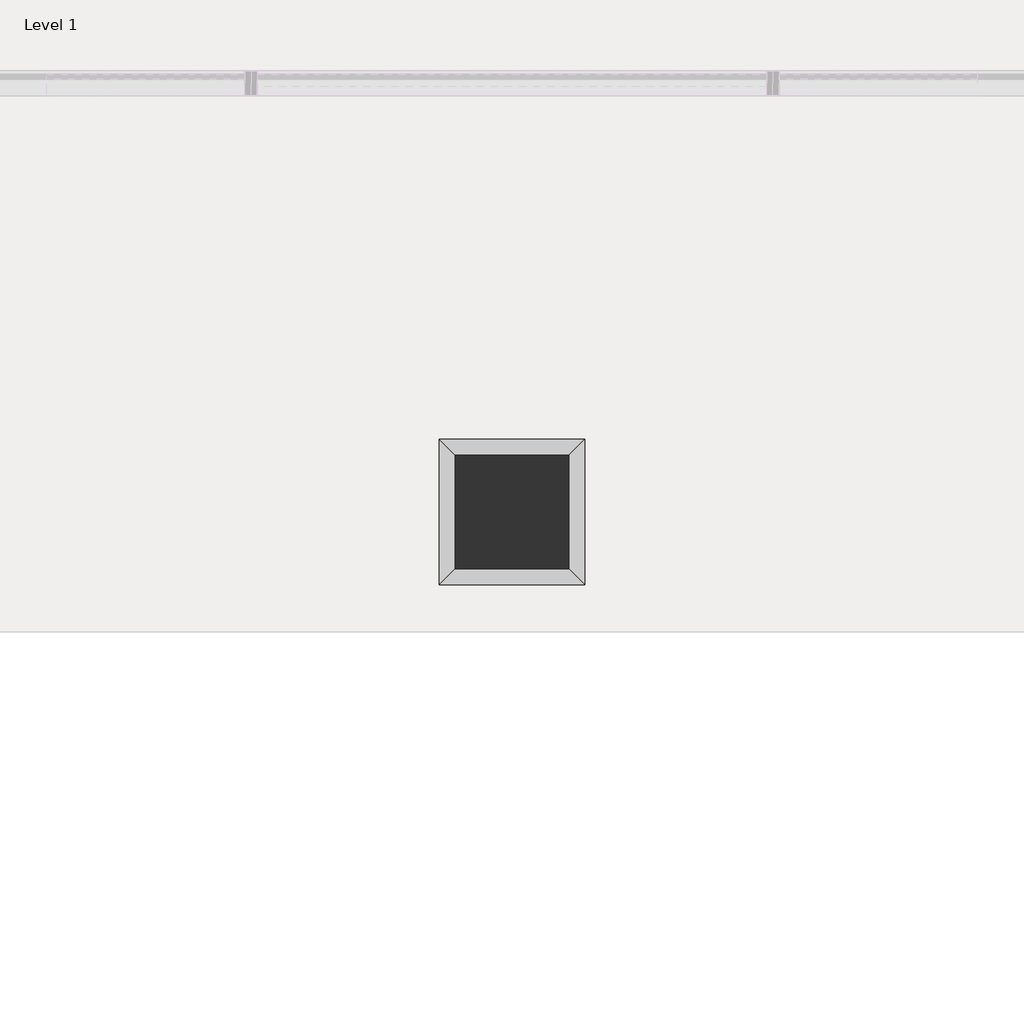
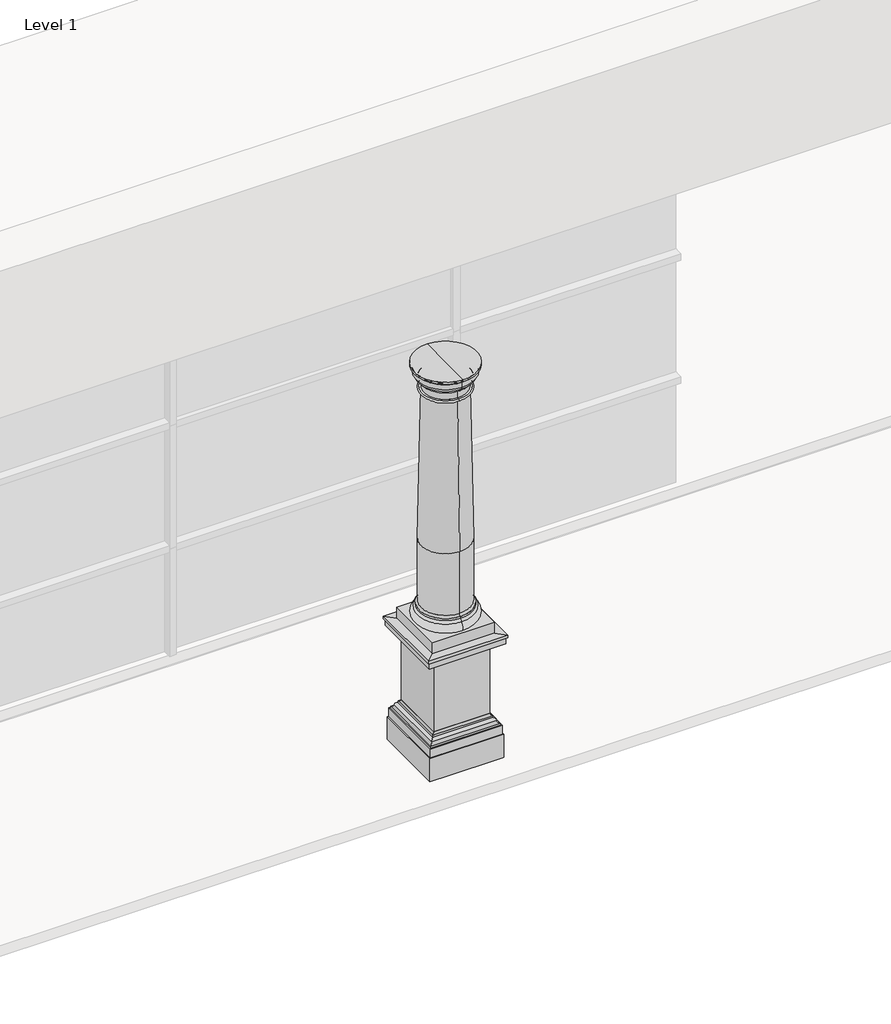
# One storey, part 5 of 8: 1 column.
"""IFC4 building model written with IfcOpenShell, lengths in millimetres."""

import ifcopenshell
import ifcopenshell.guid

model = None  # the IFC model being written
_history = None  # IfcOwnerHistory: only IFC2X3 demands one
_inside = {}  # id of a spatial element -> (the spatial element, [elements in it])
_under = {}  # id of a project, library or spatial element -> (it, [spatial elements below it])
_declared = {}  # id of a project -> (the project, [libraries it declares])
_typed = {}  # id of a type object -> (the type object, [elements of that type])
_made_of = {}  # id of a material, layer set ... -> (it, [elements and type objects made of it])


def new_model(schema):
    """Start an empty IFC model of exactly this schema.

    Asked for "IFC4X3", IfcOpenShell would pick the latest addendum, in which some entities
    have other attributes; the version numbers below select the first issue.
    IFC2X3 requires an IfcOwnerHistory on every rooted entity: one is made here for all.
    """
    global model, _history
    if schema == "IFC4X3":
        model = ifcopenshell.file(schema_version=(4, 3, 0, 0))
    else:
        model = ifcopenshell.file(schema=schema)
    _inside.clear()
    _under.clear()
    _declared.clear()
    _typed.clear()
    _made_of.clear()
    _history = None
    if model.schema == "IFC2X3":
        org = make("IfcOrganization", Name="unknown")
        user = make(
            "IfcPersonAndOrganization",
            ThePerson=make("IfcPerson", FamilyName="unknown"),
            TheOrganization=org,
        )
        app = make(
            "IfcApplication",
            ApplicationDeveloper=org,
            Version="unknown",
            ApplicationFullName="unknown",
            ApplicationIdentifier="unknown",
        )
        _history = make(
            "IfcOwnerHistory",
            OwningUser=user,
            OwningApplication=app,
            ChangeAction="ADDED",
            CreationDate=0,
        )
    return model


def make(cls, **values):
    """One entity of the class cls with the attributes given. An attribute that is None is left unset."""
    return model.create_entity(
        cls, **{name: value for name, value in values.items() if value is not None}
    )


def rooted(cls, **values):
    """An entity with a GlobalId (a new one), such as an element, a storey or a relation."""
    return make(cls, GlobalId=ifcopenshell.guid.new(), OwnerHistory=_history, **values)


def si_unit(unit_type, name, prefix=None):
    """IfcSIUnit, for example si_unit("LENGTHUNIT", "METRE", prefix="MILLI")."""
    return make("IfcSIUnit", UnitType=unit_type, Prefix=prefix, Name=name)


def assignment(units):
    """IfcUnitAssignment: the units of a project."""
    return None if units is None else make("IfcUnitAssignment", Units=units)


def point(xyz):
    """IfcCartesianPoint."""
    return None if xyz is None else make("IfcCartesianPoint", Coordinates=xyz)


def direction(xyz):
    """IfcDirection."""
    return None if xyz is None else make("IfcDirection", DirectionRatios=xyz)


def frame(location, z_axis=None, x_axis=None):
    """IfcAxis2Placement3D, a coordinate frame: its origin and axes. An axis left out is left unset."""
    return make(
        "IfcAxis2Placement3D",
        Location=point(location),
        Axis=direction(z_axis),
        RefDirection=direction(x_axis),
    )


def origin():
    """The frame at (0, 0, 0) with its axes left unset."""
    return frame((0.0, 0.0, 0.0))


def place(relative_to, where):
    """IfcLocalPlacement: puts the frame where relative to a parent placement (None: the world)."""
    return make(
        "IfcLocalPlacement", PlacementRelTo=relative_to, RelativePlacement=where
    )


def context(
    kind, dimensions, precision=None, world=None, true_north=None, identifier=None
):
    """IfcGeometricRepresentationContext, for example the 3D "Model" context."""
    return make(
        "IfcGeometricRepresentationContext",
        ContextIdentifier=identifier,
        ContextType=kind,
        CoordinateSpaceDimension=dimensions,
        Precision=precision,
        WorldCoordinateSystem=world,
        TrueNorth=true_north,
    )


def project(units=None, contexts=None):
    """IfcProject with its units and contexts."""
    return rooted(
        "IfcProject",
        Name="project",
        RepresentationContexts=contexts,
        UnitsInContext=assignment(units),
    )


def spatial(cls, under=None, at=None, **own):
    """A site, building, storey or space (cls), placed at a placement, below another one or the project."""
    s = rooted(cls, ObjectPlacement=at, **own)
    if under is not None:
        _under.setdefault(under.id(), (under, []))[1].append(s)
    return s


def polyline(points):
    """IfcPolyline through the points."""
    return make("IfcPolyline", Points=[point(p) for p in points])


def circle_curve(where, radius):
    """IfcCircle in the frame where."""
    return make("IfcCircle", Position=where, Radius=radius)


def ellipse_curve(where, semi_axis1, semi_axis2):
    """IfcEllipse in the frame where."""
    return make(
        "IfcEllipse", Position=where, SemiAxis1=semi_axis1, SemiAxis2=semi_axis2
    )


def trimmed(basis, trim1, trim2, sense, master):
    """IfcTrimmedCurve: the piece of a basis curve between two trims."""
    return make(
        "IfcTrimmedCurve",
        BasisCurve=basis,
        Trim1=trim1,
        Trim2=trim2,
        SenseAgreement=sense,
        MasterRepresentation=master,
    )


def outline(outer, holes=None, kind="AREA"):
    """IfcArbitraryClosedProfileDef: a profile drawn as a closed curve; with holes, ...WithVoids."""
    if holes is None:
        return make("IfcArbitraryClosedProfileDef", ProfileType=kind, OuterCurve=outer)
    return make(
        "IfcArbitraryProfileDefWithVoids",
        ProfileType=kind,
        OuterCurve=outer,
        InnerCurves=holes,
    )


def extrude(swept, where, along, depth):
    """IfcExtrudedAreaSolid: the profile swept, set in the frame where, extruded along a direction by depth."""
    return make(
        "IfcExtrudedAreaSolid",
        SweptArea=swept,
        Position=where,
        ExtrudedDirection=direction(along),
        Depth=depth,
    )


def faces_of(points, faces, orient=None, outer=None):
    """IfcFace entities. A face is a list of loops; a loop is a list of indices into points, from 0.

    orient and outer hold one flag for each loop. By default every Orientation is true, the
    first loop of a face is its IfcFaceOuterBound and the others are IfcFaceBound.
    """
    made = []
    for i, loops in enumerate(faces):
        bounds = []
        for j, loop in enumerate(loops):
            is_outer = j == 0 if outer is None else outer[i][j]
            bounds.append(
                make(
                    "IfcFaceOuterBound" if is_outer else "IfcFaceBound",
                    Bound=make("IfcPolyLoop", Polygon=[points[k] for k in loop]),
                    Orientation=True if orient is None else orient[i][j],
                )
            )
        made.append(make("IfcFace", Bounds=bounds))
    return made


def faceted_brep(points, faces, orient=None, outer=None, voids=None):
    """IfcFacetedBrep: a solid bounded by flat faces; with voids (closed shells), ...WithVoids."""
    shared = [point(p) for p in points]
    hull = make("IfcClosedShell", CfsFaces=faces_of(shared, faces, orient, outer))
    if voids is None:
        return make("IfcFacetedBrep", Outer=hull)
    return make(
        "IfcFacetedBrepWithVoids",
        Outer=hull,
        Voids=[
            make(cls, CfsFaces=faces_of(shared, fs, o, b)) for cls, fs, o, b in voids
        ],
    )


def shape(context_of_items, identifier, shape_type, items):
    """IfcShapeRepresentation: the items that make up one representation, for example the "Body"."""
    return make(
        "IfcShapeRepresentation",
        ContextOfItems=context_of_items,
        RepresentationIdentifier=identifier,
        RepresentationType=shape_type,
        Items=items,
    )


def made_of(thing, what):
    """Note that an element or type object is made of a material, layer set ...; save() writes the relation."""
    if what is not None:
        _made_of.setdefault(what.id(), (what, []))[1].append(thing)
    return thing


def element(
    cls,
    number,
    at=None,
    inside=None,
    cuts=None,
    type_object=None,
    material=None,
    context=None,
    identifier="Body",
    shape_type=None,
    held_by="IfcProductDefinitionShape",
    body=None,
    shapes=None,
    **own,
):
    """One element of the class cls, such as IfcWall. Its Tag is "e" and its number.

    at: its placement. inside: the storey or other place that contains it. cuts: it is an
    opening in that element (IfcRelVoidsElement). A single representation is given by context,
    identifier, shape_type and body (its items); several are given by shapes. held_by: the class
    of the entity that holds the representations. save() writes the other relations.
    """
    e = rooted(cls, Tag="e%d" % number, ObjectPlacement=at, **own)
    if body is not None:
        shapes = [shape(context, identifier, shape_type, body)]
    if shapes is not None:
        e.Representation = make(held_by, Representations=shapes)
    if inside is not None:
        _inside.setdefault(inside.id(), (inside, []))[1].append(e)
    if cuts is not None:
        rooted(
            "IfcRelVoidsElement", RelatingBuildingElement=cuts, RelatedOpeningElement=e
        )
    if type_object is not None:
        _typed.setdefault(type_object.id(), (type_object, []))[1].append(e)
    return made_of(e, material)


def aggregate(whole, parts):
    """IfcRelAggregates: a whole, such as a stair, and the parts it consists of."""
    return rooted("IfcRelAggregates", RelatingObject=whole, RelatedObjects=parts)


def save(model, path):
    """Write the relations noted so far, then the file.

    IfcRelAggregates (storeys below a building ...), IfcRelContainedInSpatialStructure (elements
    in a storey), IfcRelDefinesByType, IfcRelAssociatesMaterial and IfcRelDeclares: one each for
    every whole, place, type object, material and project.
    """
    for whole, parts in _under.values():
        aggregate(whole, parts)
    for where, things in _inside.values():
        rooted(
            "IfcRelContainedInSpatialStructure",
            RelatedElements=things,
            RelatingStructure=where,
        )
    for kind, things in _typed.values():
        rooted("IfcRelDefinesByType", RelatedObjects=things, RelatingType=kind)
    for what, things in _made_of.values():
        rooted("IfcRelAssociatesMaterial", RelatedObjects=things, RelatingMaterial=what)
    for by, libraries in _declared.values():
        rooted("IfcRelDeclares", RelatingContext=by, RelatedDefinitions=libraries)
    model.write(path)


def plane_surface(at):
    """IfcPlane: the flat surface through the origin of the frame at, square to its z axis."""
    return make("IfcPlane", Position=at)


def cylinder_surface(at, radius):
    """IfcCylindricalSurface: all points at the distance radius from the z axis of the frame at."""
    return make("IfcCylindricalSurface", Position=at, Radius=radius)


def revolved_surface(curve, axis_point, axis_direction):
    """IfcSurfaceOfRevolution: the curve turned about the line through axis_point along axis_direction."""
    return make(
        "IfcSurfaceOfRevolution",
        SweptCurve=make("IfcArbitraryOpenProfileDef", ProfileType="CURVE", Curve=curve),
        AxisPosition=make("IfcAxis1Placement", Location=point(axis_point), Axis=direction(axis_direction)),
    )


def advanced_brep(points, edges, surfaces, faces):
    """IfcAdvancedBrep: a solid bounded by faces that lie on surfaces and meet in shared edges.

    An edge is (start, end): straight between two places in points (the first is 0);
    or (start, end, curve); or (start, end, curve, False) where it runs against its curve.
    A face is (place in surfaces, loops), or (place, loops, False) where it looks against
    its surface's normal. A loop lists edges by number (the first is 1), with a minus sign
    where the edge is run from its end to its start. The first loop is the outer one.
    """
    corners = [point(p) for p in points]
    vertices = [make("IfcVertexPoint", VertexGeometry=c) for c in corners]
    made = []
    for start, end, *more in edges:
        made.append(
            make(
                "IfcEdgeCurve",
                EdgeStart=vertices[start],
                EdgeEnd=vertices[end],
                EdgeGeometry=more[0] if more else make("IfcPolyline", Points=[corners[start], corners[end]]),
                SameSense=more[1] if len(more) > 1 else True,
            )
        )
    hull = []
    for where, loops, *sense in faces:
        bounds = []
        for j, loop in enumerate(loops):
            ring = [make("IfcOrientedEdge", EdgeElement=made[abs(k) - 1], Orientation=k > 0) for k in loop]
            bounds.append(
                make(
                    "IfcFaceOuterBound" if j == 0 else "IfcFaceBound",
                    Bound=make("IfcEdgeLoop", EdgeList=ring),
                    Orientation=True,
                )
            )
        hull.append(make("IfcAdvancedFace", Bounds=bounds, FaceSurface=surfaces[where], SameSense=sense[0] if sense else True))
    return make("IfcAdvancedBrep", Outer=make("IfcClosedShell", CfsFaces=hull))


model = new_model("IFC4")

# Units and contexts
model_context = context("Model", 3, world=origin())
ifc_project = project(units=[si_unit("LENGTHUNIT", "METRE", prefix="MILLI")], contexts=[model_context])

# Site, building, storey
site = spatial("IfcSite", under=ifc_project)
building = spatial("IfcBuilding", under=site)
storey = spatial("IfcBuildingStorey", under=building, Name="Level 1", Elevation=0.0)

# Column
placement = place(None, origin())
element("IfcColumn", 1, ObjectType="Doric Column : 16'  Height (10 2/3 x Dia.)", at=placement, inside=storey, context=model_context, shape_type="SolidModel", body=[
    extrude(outline(polyline([(5363.9045948, -1720.0769576), (5363.9045948, -2297.9269576), (4786.0545948, -2297.9269576), (4786.0545948, -1720.0769576), (5363.9045948, -1720.0769576)])), frame((0.0, 0.0, 1117.6), z_axis=(0.0, 0.0, 1.0), x_axis=(1.0, 0.0, 0.0)), (0.0, 0.0, 1.0), 107.95),
    faceted_brep([(4846.3795948, -2237.6019576, 1117.6), (4703.5045948, -2380.4769576, 1117.6), (5446.4545948, -2380.4769576, 1117.6), (5303.5795948, -2237.6019576, 1117.6), (4846.3795948, -2237.6019576, 1003.3), (5303.5795948, -2237.6019576, 1003.3), (4775.0966777, -2308.8848746, 1003.3), (5374.8625119, -2308.8848746, 1003.3), (4741.6045948, -2342.3769576, 1028.7), (5408.3545948, -2342.3769576, 1028.7), (4716.2045948, -2367.7769576, 1028.7), (5433.7545948, -2367.7769576, 1028.7), (4716.2045948, -2367.7769576, 1092.2), (5433.7545948, -2367.7769576, 1092.2), (4703.5045948, -2380.4769576, 1092.2), (5446.4545948, -2380.4769576, 1092.2), (5446.4545948, -1637.5269576, 1117.6), (5303.5795948, -1780.4019576, 1117.6), (5303.5795948, -1780.4019576, 1003.3), (5374.8625119, -1709.1190405, 1003.3), (5408.3545948, -1675.6269576, 1028.7), (5433.7545948, -1650.2269576, 1028.7), (5433.7545948, -1650.2269576, 1092.2), (5446.4545948, -1637.5269576, 1092.2), (4703.5045948, -1637.5269576, 1117.6), (4846.3795948, -1780.4019576, 1117.6), (4846.3795948, -1780.4019576, 1003.3), (4775.0966777, -1709.1190405, 1003.3), (4741.6045948, -1675.6269576, 1028.7), (4716.2045948, -1650.2269576, 1028.7), (4716.2045948, -1650.2269576, 1092.2), (4703.5045948, -1637.5269576, 1092.2)], [[[0, 1, 2, 3]], [[4, 0, 3, 5]], [[6, 4, 5, 7]], [[8, 6, 7, 9]], [[10, 8, 9, 11]], [[12, 10, 11, 13]], [[14, 12, 13, 15]], [[1, 14, 15, 2]], [[3, 2, 16, 17]], [[5, 3, 17, 18]], [[7, 5, 18, 19]], [[9, 7, 19, 20]], [[11, 9, 20, 21]], [[13, 11, 21, 22]], [[15, 13, 22, 23]], [[2, 15, 23, 16]], [[17, 16, 24, 25]], [[18, 17, 25, 26]], [[19, 18, 26, 27]], [[20, 19, 27, 28]], [[21, 20, 28, 29]], [[22, 21, 29, 30]], [[23, 22, 30, 31]], [[16, 23, 31, 24]], [[25, 24, 1, 0]], [[26, 25, 0, 4]], [[27, 26, 4, 6]], [[28, 27, 6, 8]], [[29, 28, 8, 10]], [[30, 29, 10, 12]], [[31, 30, 12, 14]], [[24, 31, 14, 1]]]),
    advanced_brep(
    [(5074.9795948, -2256.6519576, 1358.9), (5074.9795948, -1761.3519576, 1358.9), (5074.9795948, -1780.4019576, 1377.95), (5074.9795948, -2237.6019576, 1377.95), (5074.9795948, -1780.4019576, 1989.5041667), (5074.9795948, -2237.6019576, 1989.5041667), (5074.9795948, -2256.6519576, 1339.85), (5074.9795948, -1761.3519576, 1339.85), (5074.9795948, -2256.6519576, 1308.1), (5074.9795948, -1761.3519576, 1308.1), (5074.9795948, -2256.6519576, 1225.55), (5074.9795948, -1761.3519576, 1225.55), (5074.9795948, -2009.0019576, 1225.55), (5074.9795948, -1808.9769576, 3479.3125), (5074.9795948, -2209.0269576, 3479.3125), (5074.9795948, -2301.1019576, 3714.2625601), (5074.9795948, -1716.9019576, 3714.2625601), (5074.9795948, -1716.9019576, 3733.3125), (5074.9795948, -2301.1019576, 3733.3125), (5074.9795948, -2009.0019576, 3733.3125), (5074.9795948, -2282.0518974, 3695.2125), (5074.9795948, -1735.9520177, 3695.2125), (5074.9795948, -2278.8769576, 3695.2125), (5074.9795948, -1739.1269576, 3695.2125), (5074.9795948, -2278.8769576, 3644.4125), (5074.9795948, -1739.1269576, 3644.4125), (5074.9795948, -2272.5269576, 3644.4125), (5074.9795948, -1745.4769576, 3644.4125), (5074.9795948, -2228.0769576, 3599.9625), (5074.9795948, -1789.9269576, 3599.9625), (5074.9795948, -2228.0769576, 3580.9125), (5074.9795948, -1789.9269576, 3580.9125), (5074.9795948, -2209.0269576, 3580.9125), (5074.9795948, -1808.9769576, 3580.9125), (5074.9795948, -2209.0269576, 3498.3625), (5074.9795948, -1808.9769576, 3498.3625), (5074.9795948, -2228.0769576, 3498.3625), (5074.9795948, -1789.9269576, 3498.3625), (5074.9795948, -2228.0769576, 3479.3125), (5074.9795948, -1789.9269576, 3479.3125)],
    [
        (0, 1, circle_curve(frame((5074.9795948, -2009.0019576, 1358.9), z_axis=(0.0, 0.0, 1.0), x_axis=(0.0, 1.0, 0.0)), 247.65)),
        (1, 2, circle_curve(frame((5074.9795948, -1761.3519576, 1377.95), z_axis=(-1.0, 0.0, 0.0), x_axis=(0.0, -1.0, 0.0)), 19.05)),
        (2, 3, circle_curve(frame((5074.9795948, -2009.0019576, 1377.95), z_axis=(0.0, 0.0, -1.0), x_axis=(0.0, 1.0, 0.0)), 228.6)),
        (3, 0, circle_curve(frame((5074.9795948, -2256.6519576, 1377.95), z_axis=(-1.0, 0.0, 0.0), x_axis=(0.0, 1.0, 0.0)), 19.05)),
        (2, 4),
        (4, 5, circle_curve(frame((5074.9795948, -2009.0019576, 1989.5041667), z_axis=(0.0, 0.0, -1.0), x_axis=(0.0, 1.0, 0.0)), 228.6)),
        (5, 3),
        (2, 3, circle_curve(frame((5074.9795948, -2009.0019576, 1377.95), z_axis=(0.0, 0.0, 1.0), x_axis=(0.0, 1.0, 0.0)), 228.6)),
        (5, 4, circle_curve(frame((5074.9795948, -2009.0019576, 1989.5041667), z_axis=(0.0, 0.0, -1.0), x_axis=(0.0, 1.0, 0.0)), 228.6)),
        (1, 0, circle_curve(frame((5074.9795948, -2009.0019576, 1358.9), z_axis=(0.0, 0.0, 1.0), x_axis=(0.0, 1.0, 0.0)), 247.65)),
        (6, 7, circle_curve(frame((5074.9795948, -2009.0019576, 1339.85), z_axis=(0.0, 0.0, 1.0), x_axis=(0.0, 1.0, 0.0)), 247.65)),
        (7, 1),
        (0, 6),
        (7, 6, circle_curve(frame((5074.9795948, -2009.0019576, 1339.85), z_axis=(0.0, 0.0, 1.0), x_axis=(0.0, 1.0, 0.0)), 247.65)),
        (8, 9, circle_curve(frame((5074.9795948, -2009.0019576, 1308.1), z_axis=(0.0, 0.0, 1.0), x_axis=(0.0, 1.0, 0.0)), 247.65)),
        (9, 7, circle_curve(frame((5074.9795948, -1761.3519576, 1323.975), z_axis=(1.0, 0.0, 0.0), x_axis=(0.0, -1.0, 0.0)), 15.875)),
        (6, 8, circle_curve(frame((5074.9795948, -2256.6519576, 1323.975), z_axis=(1.0, 0.0, 0.0), x_axis=(0.0, 1.0, 0.0)), 15.875)),
        (9, 8, circle_curve(frame((5074.9795948, -2009.0019576, 1308.1), z_axis=(0.0, 0.0, 1.0), x_axis=(0.0, 1.0, 0.0)), 247.65)),
        (10, 11, circle_curve(frame((5074.9795948, -2009.0019576, 1225.55), z_axis=(0.0, 0.0, 1.0), x_axis=(0.0, 1.0, 0.0)), 247.65)),
        (11, 9, circle_curve(frame((5074.9795948, -1761.3519576, 1266.825), z_axis=(1.0, 0.0, 0.0), x_axis=(0.0, -1.0, 0.0)), 41.275)),
        (8, 10, circle_curve(frame((5074.9795948, -2256.6519576, 1266.825), z_axis=(1.0, 0.0, 0.0), x_axis=(0.0, 1.0, 0.0)), 41.275)),
        (11, 10, circle_curve(frame((5074.9795948, -2009.0019576, 1225.55), z_axis=(0.0, 0.0, 1.0), x_axis=(0.0, 1.0, 0.0)), 247.65)),
        (12, 11),
        (10, 12),
        (4, 13),
        (13, 14, circle_curve(frame((5074.9795948, -2009.0019576, 3479.3125), z_axis=(0.0, 0.0, -1.0), x_axis=(0.0, 1.0, 0.0)), 200.025)),
        (14, 5),
        (14, 13, circle_curve(frame((5074.9795948, -2009.0019576, 3479.3125), z_axis=(0.0, 0.0, -1.0), x_axis=(0.0, 1.0, 0.0)), 200.025)),
        (15, 16, circle_curve(frame((5074.9795948, -2009.0019576, 3714.2625601), z_axis=(0.0, 0.0, 1.0), x_axis=(0.0, 1.0, 0.0)), 292.1)),
        (16, 17),
        (17, 18, circle_curve(frame((5074.9795948, -2009.0019576, 3733.3125), z_axis=(0.0, 0.0, -1.0), x_axis=(0.0, 1.0, 0.0)), 292.1)),
        (18, 15),
        (17, 19),
        (19, 18),
        (17, 18, circle_curve(frame((5074.9795948, -2009.0019576, 3733.3125), z_axis=(0.0, 0.0, 1.0), x_axis=(0.0, 1.0, 0.0)), 292.1)),
        (16, 15, circle_curve(frame((5074.9795948, -2009.0019576, 3714.2625601), z_axis=(0.0, 0.0, 1.0), x_axis=(0.0, 1.0, 0.0)), 292.1)),
        (20, 21, circle_curve(frame((5074.9795948, -2009.0019576, 3695.2125), z_axis=(0.0, 0.0, 1.0), x_axis=(0.0, 1.0, 0.0)), 273.0499399)),
        (21, 16, circle_curve(frame((5074.9795948, -1716.9019576, 3695.2125), z_axis=(-1.0, 0.0, 0.0), x_axis=(0.0, -1.0, 0.0)), 19.0500601)),
        (15, 20, circle_curve(frame((5074.9795948, -2301.1019576, 3695.2125), z_axis=(-1.0, 0.0, 0.0), x_axis=(0.0, 1.0, 0.0)), 19.0500601)),
        (21, 20, circle_curve(frame((5074.9795948, -2009.0019576, 3695.2125), z_axis=(0.0, 0.0, 1.0), x_axis=(0.0, 1.0, 0.0)), 273.0499399)),
        (22, 23, circle_curve(frame((5074.9795948, -2009.0019576, 3695.2125), z_axis=(0.0, 0.0, 1.0), x_axis=(0.0, 1.0, 0.0)), 269.875)),
        (23, 21),
        (20, 22),
        (23, 22, circle_curve(frame((5074.9795948, -2009.0019576, 3695.2125), z_axis=(0.0, 0.0, 1.0), x_axis=(0.0, 1.0, 0.0)), 269.875)),
        (24, 25, circle_curve(frame((5074.9795948, -2009.0019576, 3644.4125), z_axis=(0.0, 0.0, 1.0), x_axis=(0.0, 1.0, 0.0)), 269.875)),
        (25, 23),
        (22, 24),
        (25, 24, circle_curve(frame((5074.9795948, -2009.0019576, 3644.4125), z_axis=(0.0, 0.0, 1.0), x_axis=(0.0, 1.0, 0.0)), 269.875)),
        (26, 27, circle_curve(frame((5074.9795948, -2009.0019576, 3644.4125), z_axis=(0.0, 0.0, 1.0), x_axis=(0.0, 1.0, 0.0)), 263.525)),
        (27, 25),
        (24, 26),
        (27, 26, circle_curve(frame((5074.9795948, -2009.0019576, 3644.4125), z_axis=(0.0, 0.0, 1.0), x_axis=(0.0, 1.0, 0.0)), 263.525)),
        (28, 29, circle_curve(frame((5074.9795948, -2009.0019576, 3599.9625), z_axis=(0.0, 0.0, 1.0), x_axis=(0.0, 1.0, 0.0)), 219.075)),
        (29, 27, circle_curve(frame((5074.9795948, -1789.9269576, 3644.4125), z_axis=(1.0, 0.0, 0.0), x_axis=(0.0, -1.0, 0.0)), 44.45)),
        (26, 28, circle_curve(frame((5074.9795948, -2228.0769576, 3644.4125), z_axis=(1.0, 0.0, 0.0), x_axis=(0.0, 1.0, 0.0)), 44.45)),
        (29, 28, circle_curve(frame((5074.9795948, -2009.0019576, 3599.9625), z_axis=(0.0, 0.0, 1.0), x_axis=(0.0, 1.0, 0.0)), 219.075)),
        (30, 31, circle_curve(frame((5074.9795948, -2009.0019576, 3580.9125), z_axis=(0.0, 0.0, 1.0), x_axis=(0.0, 1.0, 0.0)), 219.075)),
        (31, 29, circle_curve(frame((5074.9795948, -1789.9269576, 3590.4375), z_axis=(1.0, 0.0, 0.0), x_axis=(0.0, -1.0, 0.0)), 9.525)),
        (28, 30, circle_curve(frame((5074.9795948, -2228.0769576, 3590.4375), z_axis=(1.0, 0.0, 0.0), x_axis=(0.0, 1.0, 0.0)), 9.525)),
        (31, 30, circle_curve(frame((5074.9795948, -2009.0019576, 3580.9125), z_axis=(0.0, 0.0, 1.0), x_axis=(0.0, 1.0, 0.0)), 219.075)),
        (32, 33, circle_curve(frame((5074.9795948, -2009.0019576, 3580.9125), z_axis=(0.0, 0.0, 1.0), x_axis=(0.0, 1.0, 0.0)), 200.025)),
        (33, 31),
        (30, 32),
        (33, 32, circle_curve(frame((5074.9795948, -2009.0019576, 3580.9125), z_axis=(0.0, 0.0, 1.0), x_axis=(0.0, 1.0, 0.0)), 200.025)),
        (34, 35, circle_curve(frame((5074.9795948, -2009.0019576, 3498.3625), z_axis=(0.0, 0.0, 1.0), x_axis=(0.0, 1.0, 0.0)), 200.025)),
        (35, 33),
        (32, 34),
        (35, 34, circle_curve(frame((5074.9795948, -2009.0019576, 3498.3625), z_axis=(0.0, 0.0, 1.0), x_axis=(0.0, 1.0, 0.0)), 200.025)),
        (36, 37, circle_curve(frame((5074.9795948, -2009.0019576, 3498.3625), z_axis=(0.0, 0.0, 1.0), x_axis=(0.0, 1.0, 0.0)), 219.075)),
        (37, 35),
        (34, 36),
        (37, 36, circle_curve(frame((5074.9795948, -2009.0019576, 3498.3625), z_axis=(0.0, 0.0, 1.0), x_axis=(0.0, 1.0, 0.0)), 219.075)),
        (38, 39, circle_curve(frame((5074.9795948, -2009.0019576, 3479.3125), z_axis=(0.0, 0.0, 1.0), x_axis=(0.0, 1.0, 0.0)), 219.075)),
        (39, 37, circle_curve(frame((5074.9795948, -1789.9269576, 3488.8375), z_axis=(1.0, 0.0, 0.0), x_axis=(0.0, -1.0, 0.0)), 9.525)),
        (36, 38, circle_curve(frame((5074.9795948, -2228.0769576, 3488.8375), z_axis=(1.0, 0.0, 0.0), x_axis=(0.0, 1.0, 0.0)), 9.525)),
        (39, 38, circle_curve(frame((5074.9795948, -2009.0019576, 3479.3125), z_axis=(0.0, 0.0, 1.0), x_axis=(0.0, 1.0, 0.0)), 219.075)),
        (13, 39),
        (38, 14),
    ],
    [
        revolved_surface(trimmed(ellipse_curve(frame((5074.9795948, -1761.3519576, 1377.95), z_axis=(1.0, 0.0, 0.0), x_axis=(0.0, -1.0, 0.0)), 19.05, 19.05), [point((5074.9795948, -1780.4019576, 1377.95))], [point((5074.9795948, -1761.3519576, 1358.9))], True, "CARTESIAN"), (5074.9795948, -2009.0019576, 3733.3125), (0.0, 0.0, -1.0)),
        cylinder_surface(frame((5074.9795948, -2009.0019576, 3733.3125), z_axis=(0.0, 0.0, -1.0), x_axis=(0.0, 1.0, 0.0)), 228.6),
        cylinder_surface(frame((5074.9795948, -2009.0019576, 3733.3125), z_axis=(0.0, 0.0, -1.0), x_axis=(0.0, 1.0, 0.0)), 247.65),
        revolved_surface(trimmed(ellipse_curve(frame((5074.9795948, -1761.3519576, 1323.975), z_axis=(-1.0, 0.0, 0.0), x_axis=(0.0, -1.0, 0.0)), 15.875, 15.875), [point((5074.9795948, -1761.3519576, 1339.85))], [point((5074.9795948, -1761.3519576, 1308.1))], True, "CARTESIAN"), (5074.9795948, -2009.0019576, 3733.3125), (0.0, 0.0, -1.0)),
        revolved_surface(trimmed(ellipse_curve(frame((5074.9795948, -1761.3519576, 1266.825), z_axis=(-1.0, 0.0, 0.0), x_axis=(0.0, -1.0, 0.0)), 41.275, 41.275), [point((5074.9795948, -1761.3519576, 1308.1))], [point((5074.9795948, -1761.3519576, 1225.55))], True, "CARTESIAN"), (5074.9795948, -2009.0019576, 3733.3125), (0.0, 0.0, -1.0)),
        plane_surface(frame((5074.9795948, -2009.0019576, 1225.55), z_axis=(0.0, 0.0, -1.0), x_axis=(0.0, 1.0, 0.0))),
        revolved_surface(polyline([(5074.9795948, -1808.9769576, 3479.3125), (5074.9795948, -1780.4019576, 1989.5041667)]), (5074.9795948, -2009.0019576, 3733.3125), (0.0, 0.0, -1.0)),
        cylinder_surface(frame((5074.9795948, -2009.0019576, 3733.3125), z_axis=(0.0, 0.0, -1.0), x_axis=(0.0, 1.0, 0.0)), 292.1),
        plane_surface(frame((5074.9795948, -2009.0019576, 3733.3125), z_axis=(0.0, 0.0, 1.0), x_axis=(0.0, 1.0, 0.0))),
        revolved_surface(trimmed(ellipse_curve(frame((5074.9795948, -1716.9019576, 3695.2125), z_axis=(1.0, 0.0, 0.0), x_axis=(0.0, -1.0, 0.0)), 19.0500601, 19.0500601), [point((5074.9795948, -1716.9019576, 3714.2625601))], [point((5074.9795948, -1735.9520177, 3695.2125))], True, "CARTESIAN"), (5074.9795948, -2009.0019576, 3733.3125), (0.0, 0.0, -1.0)),
        plane_surface(frame((5074.9795948, -2009.0019576, 3695.2125), z_axis=(0.0, 0.0, -1.0), x_axis=(0.0, 1.0, 0.0))),
        cylinder_surface(frame((5074.9795948, -2009.0019576, 3733.3125), z_axis=(0.0, 0.0, -1.0), x_axis=(0.0, 1.0, 0.0)), 269.875),
        plane_surface(frame((5074.9795948, -2009.0019576, 3644.4125), z_axis=(0.0, 0.0, -1.0), x_axis=(0.0, 1.0, 0.0))),
        revolved_surface(trimmed(ellipse_curve(frame((5074.9795948, -1789.9269576, 3644.4125), z_axis=(-1.0, 0.0, 0.0), x_axis=(0.0, -1.0, 0.0)), 44.45, 44.45), [point((5074.9795948, -1745.4769576, 3644.4125))], [point((5074.9795948, -1789.9269576, 3599.9625))], True, "CARTESIAN"), (5074.9795948, -2009.0019576, 3733.3125), (0.0, 0.0, -1.0)),
        revolved_surface(trimmed(ellipse_curve(frame((5074.9795948, -1789.9269576, 3590.4375), z_axis=(-1.0, 0.0, 0.0), x_axis=(0.0, -1.0, 0.0)), 9.525, 9.525), [point((5074.9795948, -1789.9269576, 3599.9625))], [point((5074.9795948, -1789.9269576, 3580.9125))], True, "CARTESIAN"), (5074.9795948, -2009.0019576, 3733.3125), (0.0, 0.0, -1.0)),
        plane_surface(frame((5074.9795948, -2009.0019576, 3580.9125), z_axis=(0.0, 0.0, -1.0), x_axis=(0.0, 1.0, 0.0))),
        cylinder_surface(frame((5074.9795948, -2009.0019576, 3733.3125), z_axis=(0.0, 0.0, -1.0), x_axis=(0.0, 1.0, 0.0)), 200.025),
        plane_surface(frame((5074.9795948, -2009.0019576, 3498.3625), z_axis=(0.0, 0.0, 1.0), x_axis=(0.0, 1.0, 0.0))),
        revolved_surface(trimmed(ellipse_curve(frame((5074.9795948, -1789.9269576, 3488.8375), z_axis=(-1.0, 0.0, 0.0), x_axis=(0.0, -1.0, 0.0)), 9.525, 9.525), [point((5074.9795948, -1789.9269576, 3498.3625))], [point((5074.9795948, -1789.9269576, 3479.3125))], True, "CARTESIAN"), (5074.9795948, -2009.0019576, 3733.3125), (0.0, 0.0, -1.0)),
        plane_surface(frame((5074.9795948, -2009.0019576, 3479.3125), z_axis=(0.0, 0.0, -1.0), x_axis=(0.0, 1.0, 0.0))),
    ],
    [
        (0, [[1, 2, 3, 4]]),
        (1, [[-3, 5, 6, 7]]),
        (1, [[8, -7, 9, -5]]),
        (0, [[10, -4, -8, -2]]),
        (2, [[11, 12, -1, 13]]),
        (2, [[14, -13, -10, -12]]),
        (3, [[15, 16, -11, 17]]),
        (3, [[18, -17, -14, -16]]),
        (4, [[19, 20, -15, 21]]),
        (4, [[22, -21, -18, -20]]),
        (5, [[23, -19, 24]]),
        (5, [[-24, -22, -23]]),
        (6, [[-6, 25, 26, 27]]),
        (6, [[-9, -27, 28, -25]]),
        (7, [[29, 30, 31, 32]]),
        (8, [[-31, 33, 34]]),
        (8, [[35, -34, -33]]),
        (7, [[36, -32, -35, -30]]),
        (9, [[37, 38, -29, 39]]),
        (9, [[40, -39, -36, -38]]),
        (10, [[41, 42, -37, 43]]),
        (10, [[44, -43, -40, -42]]),
        (11, [[45, 46, -41, 47]]),
        (11, [[48, -47, -44, -46]]),
        (12, [[49, 50, -45, 51]]),
        (12, [[52, -51, -48, -50]]),
        (13, [[53, 54, -49, 55]]),
        (13, [[56, -55, -52, -54]]),
        (14, [[57, 58, -53, 59]]),
        (14, [[60, -59, -56, -58]]),
        (15, [[61, 62, -57, 63]]),
        (15, [[64, -63, -60, -62]]),
        (16, [[65, 66, -61, 67]]),
        (16, [[68, -67, -64, -66]]),
        (17, [[69, 70, -65, 71]]),
        (17, [[72, -71, -68, -70]]),
        (18, [[73, 74, -69, 75]]),
        (18, [[76, -75, -72, -74]]),
        (19, [[-26, 77, -73, 78]]),
        (19, [[-28, -78, -76, -77]]),
    ],
),
    advanced_brep(
    [(5420.4247411, -1663.5568112, -101.6), (5420.4247411, -1663.5568112, 127.0), (5420.4247411, -2354.4471039, 127.0), (5420.4247411, -2354.4471039, -101.6), (5303.5795948, -1780.4019576, -101.6), (5303.5795948, -2237.6019576, -101.6), (5303.5795948, -1780.4019576, 317.5), (5303.5795948, -2237.6019576, 317.5), (5337.8747411, -1746.1068112, 317.5), (5337.8747411, -2271.8971039, 317.5), (5356.9247411, -1727.0568112, 298.45), (5356.9247411, -2290.9471039, 298.45), (5356.9247411, -1727.0568112, 279.4), (5356.9247411, -2290.9471039, 279.4), (5379.1497411, -1704.8318112, 257.175), (5379.1497411, -2313.1721039, 257.175), (5401.3747411, -1682.6068112, 234.95), (5401.3747411, -2335.3971039, 234.95), (5401.3747411, -1682.6068112, 215.9), (5401.3747411, -2335.3971039, 215.9), (5410.8997411, -1673.0818112, 215.9), (5410.8997411, -2344.9221039, 215.9), (5410.8997411, -1673.0818112, 127.0), (5410.8997411, -2344.9221039, 127.0), (4729.5344485, -2354.4471039, 127.0), (4729.5344485, -2354.4471039, -101.6), (4846.3795948, -2237.6019576, -101.6), (4846.3795948, -2237.6019576, 317.5), (4812.0844485, -2271.8971039, 317.5), (4793.0344485, -2290.9471039, 298.45), (4793.0344485, -2290.9471039, 279.4), (4770.8094485, -2313.1721039, 257.175), (4748.5844485, -2335.3971039, 234.95), (4748.5844485, -2335.3971039, 215.9), (4739.0594485, -2344.9221039, 215.9), (4739.0594485, -2344.9221039, 127.0), (4729.5344485, -1663.5568112, 127.0), (4729.5344485, -1663.5568112, -101.6), (4846.3795948, -1780.4019576, -101.6), (4846.3795948, -1780.4019576, 317.5), (4812.0844485, -1746.1068112, 317.5), (4793.0344485, -1727.0568112, 298.45), (4793.0344485, -1727.0568112, 279.4), (4770.8094485, -1704.8318112, 257.175), (4748.5844485, -1682.6068112, 234.95), (4748.5844485, -1682.6068112, 215.9), (4739.0594485, -1673.0818112, 215.9), (4739.0594485, -1673.0818112, 127.0)],
    [
        (0, 1),
        (1, 2),
        (2, 3),
        (3, 0),
        (4, 0),
        (3, 5),
        (5, 4),
        (6, 4),
        (5, 7),
        (7, 6),
        (8, 6),
        (7, 9),
        (9, 8),
        (10, 8, ellipse_curve(frame((5356.9247411, -1727.0568112, 317.5), z_axis=(-0.7071067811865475, 0.7071067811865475, 0.0), x_axis=(-0.7071067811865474, -0.7071067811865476, 0.0)), 26.9407684, 19.05)),
        (9, 11, ellipse_curve(frame((5356.9247411, -2290.9471039, 317.5), z_axis=(-0.7071067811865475, -0.7071067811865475, 0.0), x_axis=(0.7071067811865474, -0.7071067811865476, 0.0)), 26.9407684, 19.05)),
        (11, 10),
        (12, 10),
        (11, 13),
        (13, 12),
        (14, 12, ellipse_curve(frame((5356.9247411, -1727.0568112, 257.175), z_axis=(0.7071067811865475, -0.7071067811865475, 0.0), x_axis=(0.7071067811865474, 0.7071067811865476, 0.0)), 31.4308964, 22.225)),
        (13, 15, ellipse_curve(frame((5356.9247411, -2290.9471039, 257.175), z_axis=(0.7071067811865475, 0.7071067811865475, 0.0), x_axis=(-0.7071067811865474, 0.7071067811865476, 0.0)), 31.4308964, 22.225)),
        (15, 14),
        (16, 14, ellipse_curve(frame((5401.3747411, -1682.6068112, 257.175), z_axis=(-0.7071067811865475, 0.7071067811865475, 0.0), x_axis=(-0.7071067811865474, -0.7071067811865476, 0.0)), 31.4308964, 22.225)),
        (15, 17, ellipse_curve(frame((5401.3747411, -2335.3971039, 257.175), z_axis=(-0.7071067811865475, -0.7071067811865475, 0.0), x_axis=(0.7071067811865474, -0.7071067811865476, 0.0)), 31.4308964, 22.225)),
        (17, 16),
        (18, 16),
        (17, 19),
        (19, 18),
        (20, 18),
        (19, 21),
        (21, 20),
        (22, 20),
        (21, 23),
        (23, 22),
        (1, 22),
        (23, 2),
        (2, 24),
        (24, 25),
        (25, 3),
        (25, 26),
        (26, 5),
        (26, 27),
        (27, 7),
        (27, 28),
        (28, 9),
        (28, 29, ellipse_curve(frame((4793.0344485, -2290.9471039, 317.5), z_axis=(-0.7071067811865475, 0.7071067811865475, 0.0), x_axis=(-0.7071067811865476, -0.7071067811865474, 0.0)), 26.9407684, 19.05)),
        (29, 11),
        (29, 30),
        (30, 13),
        (30, 31, ellipse_curve(frame((4793.0344485, -2290.9471039, 257.175), z_axis=(0.7071067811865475, -0.7071067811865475, 0.0), x_axis=(0.7071067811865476, 0.7071067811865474, 0.0)), 31.4308964, 22.225)),
        (31, 15),
        (31, 32, ellipse_curve(frame((4748.5844485, -2335.3971039, 257.175), z_axis=(-0.7071067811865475, 0.7071067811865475, 0.0), x_axis=(-0.7071067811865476, -0.7071067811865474, 0.0)), 31.4308964, 22.225)),
        (32, 17),
        (32, 33),
        (33, 19),
        (33, 34),
        (34, 21),
        (34, 35),
        (35, 23),
        (35, 24),
        (24, 36),
        (36, 37),
        (37, 25),
        (37, 38),
        (38, 26),
        (38, 39),
        (39, 27),
        (39, 40),
        (40, 28),
        (40, 41, ellipse_curve(frame((4793.0344485, -1727.0568112, 317.5), z_axis=(0.7071067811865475, 0.7071067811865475, 0.0), x_axis=(-0.7071067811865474, 0.7071067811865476, 0.0)), 26.9407684, 19.05)),
        (41, 29),
        (41, 42),
        (42, 30),
        (42, 43, ellipse_curve(frame((4793.0344485, -1727.0568112, 257.175), z_axis=(-0.7071067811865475, -0.7071067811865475, 0.0), x_axis=(0.7071067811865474, -0.7071067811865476, 0.0)), 31.4308964, 22.225)),
        (43, 31),
        (43, 44, ellipse_curve(frame((4748.5844485, -1682.6068112, 257.175), z_axis=(0.7071067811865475, 0.7071067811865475, 0.0), x_axis=(-0.7071067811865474, 0.7071067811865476, 0.0)), 31.4308964, 22.225)),
        (44, 32),
        (44, 45),
        (45, 33),
        (45, 46),
        (46, 34),
        (46, 47),
        (47, 35),
        (47, 36),
        (36, 1),
        (0, 37),
        (4, 38),
        (6, 39),
        (8, 40),
        (10, 41),
        (12, 42),
        (14, 43),
        (16, 44),
        (18, 45),
        (20, 46),
        (22, 47),
    ],
    [
        plane_surface(frame((5420.4247411, -1663.5568112, 127.0), z_axis=(1.0, 0.0, 0.0), x_axis=(0.0, -1.0, 0.0))),
        plane_surface(frame((5420.4247411, -1663.5568112, -101.6), z_axis=(0.0, 0.0, -1.0), x_axis=(0.0, -1.0, 0.0))),
        plane_surface(frame((5303.5795948, -1780.4019576, -101.6), z_axis=(-1.0, 0.0, 0.0), x_axis=(0.0, -1.0, 0.0))),
        plane_surface(frame((5303.5795948, -1780.4019576, 317.5), z_axis=(0.0, 0.0, 1.0), x_axis=(0.0, -1.0, 0.0))),
        revolved_surface(polyline([(5375.9747411, -2309.9971039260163, 317.5), (5375.9747411, -1708.0068111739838, 317.5)]), (5356.9247411, -1650.5418844, 317.5), (0.0, -1.0, 0.0)),
        plane_surface(frame((5356.9247411, -1727.0568112, 298.45), z_axis=(1.0, 0.0, 0.0), x_axis=(0.0, -1.0, 0.0))),
        cylinder_surface(frame((5356.9247411, -1650.5418844, 257.175), z_axis=(0.0, 1.0, 0.0), x_axis=(1.0, 0.0, 0.0)), 22.225),
        revolved_surface(polyline([(5423.599741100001, -2357.622103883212, 257.175), (5423.599741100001, -1660.3818112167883, 257.175)]), (5401.3747411, -1650.5418844, 257.175), (0.0, -1.0, 0.0)),
        plane_surface(frame((5401.3747411, -1682.6068112, 234.95), z_axis=(1.0, 0.0, 0.0), x_axis=(0.0, -1.0, 0.0))),
        plane_surface(frame((5401.3747411, -1682.6068112, 215.9), z_axis=(0.0, 0.0, 1.0), x_axis=(0.0, -1.0, 0.0))),
        plane_surface(frame((5410.8997411, -1673.0818112, 215.9), z_axis=(1.0, 0.0, 0.0), x_axis=(0.0, -1.0, 0.0))),
        plane_surface(frame((5410.8997411, -1673.0818112, 127.0), z_axis=(0.0, 0.0, 1.0), x_axis=(0.0, -1.0, 0.0))),
        plane_surface(frame((5420.4247411, -2354.4471039, 127.0), z_axis=(0.0, -1.0, 0.0), x_axis=(-1.0, 0.0, 0.0))),
        plane_surface(frame((5420.4247411, -2354.4471039, -101.6), z_axis=(0.0, 0.0, -1.0), x_axis=(-1.0, 0.0, 0.0))),
        plane_surface(frame((5303.5795948, -2237.6019576, -101.6), z_axis=(0.0, 1.0, 0.0), x_axis=(-1.0, 0.0, 0.0))),
        plane_surface(frame((5303.5795948, -2237.6019576, 317.5), z_axis=(0.0, 0.0, 1.0), x_axis=(-1.0, 0.0, 0.0))),
        revolved_surface(polyline([(4773.984448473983, -2309.9971039, 317.5), (5375.974741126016, -2309.9971039, 317.5)]), (5433.439668, -2290.9471039, 317.5), (-1.0, 0.0, 0.0)),
        plane_surface(frame((5356.9247411, -2290.9471039, 298.45), z_axis=(0.0, -1.0, 0.0), x_axis=(-1.0, 0.0, 0.0))),
        cylinder_surface(frame((5433.439668, -2290.9471039, 257.175), z_axis=(1.0, 0.0, 0.0), x_axis=(0.0, -1.0, 0.0)), 22.225),
        revolved_surface(polyline([(4726.359448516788, -2357.6221038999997, 257.175), (5423.599741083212, -2357.6221038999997, 257.175)]), (5433.439668, -2335.3971039, 257.175), (-1.0, 0.0, 0.0)),
        plane_surface(frame((5401.3747411, -2335.3971039, 234.95), z_axis=(0.0, -1.0, 0.0), x_axis=(-1.0, 0.0, 0.0))),
        plane_surface(frame((5401.3747411, -2335.3971039, 215.9), z_axis=(0.0, 0.0, 1.0), x_axis=(-1.0, 0.0, 0.0))),
        plane_surface(frame((5410.8997411, -2344.9221039, 215.9), z_axis=(0.0, -1.0, 0.0), x_axis=(-1.0, 0.0, 0.0))),
        plane_surface(frame((5410.8997411, -2344.9221039, 127.0), z_axis=(0.0, 0.0, 1.0), x_axis=(-1.0, 0.0, 0.0))),
        plane_surface(frame((4729.5344485, -2354.4471039, 127.0), z_axis=(-1.0, 0.0, 0.0), x_axis=(0.0, 1.0, 0.0))),
        plane_surface(frame((4729.5344485, -2354.4471039, -101.6), z_axis=(0.0, 0.0, -1.0), x_axis=(0.0, 1.0, 0.0))),
        plane_surface(frame((4846.3795948, -2237.6019576, -101.6), z_axis=(1.0, 0.0, 0.0), x_axis=(0.0, 1.0, 0.0))),
        plane_surface(frame((4846.3795948, -2237.6019576, 317.5), z_axis=(0.0, 0.0, 1.0), x_axis=(0.0, 1.0, 0.0))),
        revolved_surface(polyline([(4773.984448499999, -1708.0068111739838, 317.5), (4773.984448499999, -2309.9971039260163, 317.5)]), (4793.0344485, -2367.4620307, 317.5), (0.0, 1.0, 0.0)),
        plane_surface(frame((4793.0344485, -2290.9471039, 298.45), z_axis=(-1.0, 0.0, 0.0), x_axis=(0.0, 1.0, 0.0))),
        cylinder_surface(frame((4793.0344485, -2367.4620307, 257.175), z_axis=(0.0, -1.0, 0.0), x_axis=(-1.0, 0.0, 0.0)), 22.225),
        revolved_surface(polyline([(4726.359448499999, -1660.3818112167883, 257.175), (4726.359448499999, -2357.622103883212, 257.175)]), (4748.5844485, -2367.4620307, 257.175), (0.0, 1.0, 0.0)),
        plane_surface(frame((4748.5844485, -2335.3971039, 234.95), z_axis=(-1.0, 0.0, 0.0), x_axis=(0.0, 1.0, 0.0))),
        plane_surface(frame((4748.5844485, -2335.3971039, 215.9), z_axis=(0.0, 0.0, 1.0), x_axis=(0.0, 1.0, 0.0))),
        plane_surface(frame((4739.0594485, -2344.9221039, 215.9), z_axis=(-1.0, 0.0, 0.0), x_axis=(0.0, 1.0, 0.0))),
        plane_surface(frame((4739.0594485, -2344.9221039, 127.0), z_axis=(0.0, 0.0, 1.0), x_axis=(0.0, 1.0, 0.0))),
        plane_surface(frame((4729.5344485, -1663.5568112, 127.0), z_axis=(0.0, 1.0, 0.0), x_axis=(1.0, 0.0, 0.0))),
        plane_surface(frame((4729.5344485, -1663.5568112, -101.6), z_axis=(0.0, 0.0, -1.0), x_axis=(1.0, 0.0, 0.0))),
        plane_surface(frame((4846.3795948, -1780.4019576, -101.6), z_axis=(0.0, -1.0, 0.0), x_axis=(1.0, 0.0, 0.0))),
        plane_surface(frame((4846.3795948, -1780.4019576, 317.5), z_axis=(0.0, 0.0, 1.0), x_axis=(1.0, 0.0, 0.0))),
        revolved_surface(polyline([(5375.974741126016, -1708.0068112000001, 317.5), (4773.984448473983, -1708.0068112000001, 317.5)]), (4716.5195217, -1727.0568112, 317.5), (1.0, 0.0, 0.0)),
        plane_surface(frame((4793.0344485, -1727.0568112, 298.45), z_axis=(0.0, 1.0, 0.0), x_axis=(1.0, 0.0, 0.0))),
        cylinder_surface(frame((4716.5195217, -1727.0568112, 257.175), z_axis=(-1.0, 0.0, 0.0), x_axis=(0.0, 1.0, 0.0)), 22.225),
        revolved_surface(polyline([(5423.599741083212, -1660.3818112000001, 257.175), (4726.359448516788, -1660.3818112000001, 257.175)]), (4716.5195217, -1682.6068112, 257.175), (1.0, 0.0, 0.0)),
        plane_surface(frame((4748.5844485, -1682.6068112, 234.95), z_axis=(0.0, 1.0, 0.0), x_axis=(1.0, 0.0, 0.0))),
        plane_surface(frame((4748.5844485, -1682.6068112, 215.9), z_axis=(0.0, 0.0, 1.0), x_axis=(1.0, 0.0, 0.0))),
        plane_surface(frame((4739.0594485, -1673.0818112, 215.9), z_axis=(0.0, 1.0, 0.0), x_axis=(1.0, 0.0, 0.0))),
        plane_surface(frame((4739.0594485, -1673.0818112, 127.0), z_axis=(0.0, 0.0, 1.0), x_axis=(1.0, 0.0, 0.0))),
    ],
    [
        (0, [[1, 2, 3, 4]]),
        (1, [[5, -4, 6, 7]]),
        (2, [[8, -7, 9, 10]]),
        (3, [[11, -10, 12, 13]]),
        (4, [[14, -13, 15, 16]]),
        (5, [[17, -16, 18, 19]]),
        (6, [[20, -19, 21, 22]]),
        (7, [[23, -22, 24, 25]]),
        (8, [[26, -25, 27, 28]]),
        (9, [[29, -28, 30, 31]]),
        (10, [[32, -31, 33, 34]]),
        (11, [[35, -34, 36, -2]]),
        (12, [[-3, 37, 38, 39]]),
        (13, [[-6, -39, 40, 41]]),
        (14, [[-9, -41, 42, 43]]),
        (15, [[-12, -43, 44, 45]]),
        (16, [[-15, -45, 46, 47]]),
        (17, [[-18, -47, 48, 49]]),
        (18, [[-21, -49, 50, 51]]),
        (19, [[-24, -51, 52, 53]]),
        (20, [[-27, -53, 54, 55]]),
        (21, [[-30, -55, 56, 57]]),
        (22, [[-33, -57, 58, 59]]),
        (23, [[-36, -59, 60, -37]]),
        (24, [[-38, 61, 62, 63]]),
        (25, [[-40, -63, 64, 65]]),
        (26, [[-42, -65, 66, 67]]),
        (27, [[-44, -67, 68, 69]]),
        (28, [[-46, -69, 70, 71]]),
        (29, [[-48, -71, 72, 73]]),
        (30, [[-50, -73, 74, 75]]),
        (31, [[-52, -75, 76, 77]]),
        (32, [[-54, -77, 78, 79]]),
        (33, [[-56, -79, 80, 81]]),
        (34, [[-58, -81, 82, 83]]),
        (35, [[-60, -83, 84, -61]]),
        (36, [[-62, 85, -1, 86]]),
        (37, [[-64, -86, -5, 87]]),
        (38, [[-66, -87, -8, 88]]),
        (39, [[-68, -88, -11, 89]]),
        (40, [[-70, -89, -14, 90]]),
        (41, [[-72, -90, -17, 91]]),
        (42, [[-74, -91, -20, 92]]),
        (43, [[-76, -92, -23, 93]]),
        (44, [[-78, -93, -26, 94]]),
        (45, [[-80, -94, -29, 95]]),
        (46, [[-82, -95, -32, 96]]),
        (47, [[-84, -96, -35, -85]]),
    ],
),
    extrude(outline(polyline([(5338.5045948, -1745.4769576), (5338.5045948, -2272.5269576), (4811.4545948, -2272.5269576), (4811.4545948, -1745.4769576), (5338.5045948, -1745.4769576)])), frame((0.0, 0.0, 317.5), z_axis=(0.0, 0.0, 1.0), x_axis=(1.0, 0.0, 0.0)), (0.0, 0.0, 1.0), 685.8),
])

save(model, "model.ifc")
